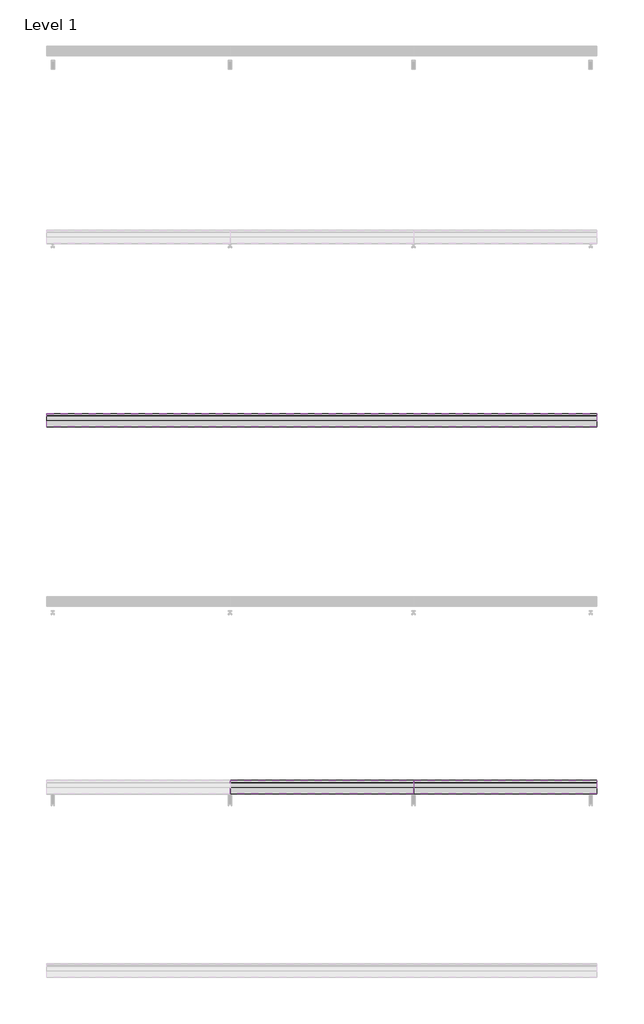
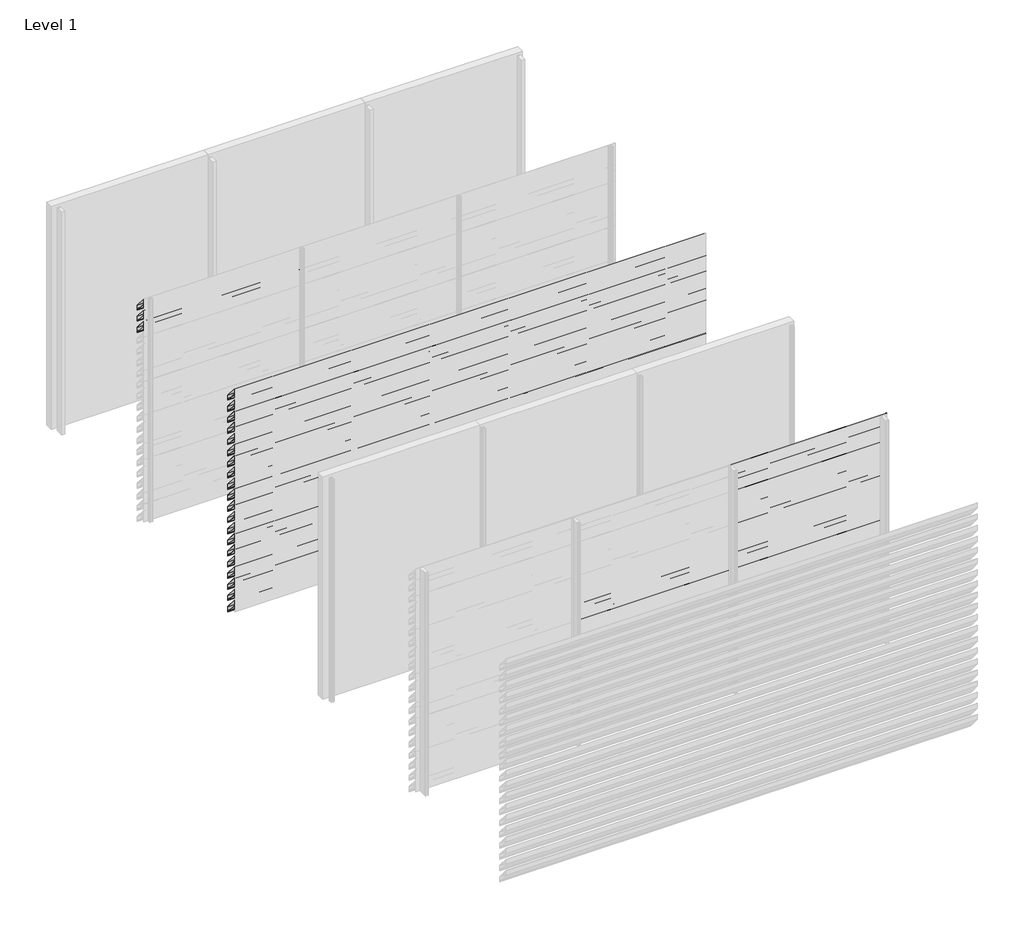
# One storey, part 5 of 16: 56 proxies.
"""IFC4 building model written with IfcOpenShell, lengths in millimetres."""

import ifcopenshell
import ifcopenshell.guid

model = None  # the IFC model being written
_history = None  # IfcOwnerHistory: only IFC2X3 demands one
_inside = {}  # id of a spatial element -> (the spatial element, [elements in it])
_under = {}  # id of a project, library or spatial element -> (it, [spatial elements below it])
_declared = {}  # id of a project -> (the project, [libraries it declares])
_typed = {}  # id of a type object -> (the type object, [elements of that type])
_made_of = {}  # id of a material, layer set ... -> (it, [elements and type objects made of it])


def new_model(schema):
    """Start an empty IFC model of exactly this schema.

    Asked for "IFC4X3", IfcOpenShell would pick the latest addendum, in which some entities
    have other attributes; the version numbers below select the first issue.
    IFC2X3 requires an IfcOwnerHistory on every rooted entity: one is made here for all.
    """
    global model, _history
    if schema == "IFC4X3":
        model = ifcopenshell.file(schema_version=(4, 3, 0, 0))
    else:
        model = ifcopenshell.file(schema=schema)
    _inside.clear()
    _under.clear()
    _declared.clear()
    _typed.clear()
    _made_of.clear()
    _history = None
    if model.schema == "IFC2X3":
        org = make("IfcOrganization", Name="unknown")
        user = make(
            "IfcPersonAndOrganization",
            ThePerson=make("IfcPerson", FamilyName="unknown"),
            TheOrganization=org,
        )
        app = make(
            "IfcApplication",
            ApplicationDeveloper=org,
            Version="unknown",
            ApplicationFullName="unknown",
            ApplicationIdentifier="unknown",
        )
        _history = make(
            "IfcOwnerHistory",
            OwningUser=user,
            OwningApplication=app,
            ChangeAction="ADDED",
            CreationDate=0,
        )
    return model


def make(cls, **values):
    """One entity of the class cls with the attributes given. An attribute that is None is left unset."""
    return model.create_entity(
        cls, **{name: value for name, value in values.items() if value is not None}
    )


def rooted(cls, **values):
    """An entity with a GlobalId (a new one), such as an element, a storey or a relation."""
    return make(cls, GlobalId=ifcopenshell.guid.new(), OwnerHistory=_history, **values)


def si_unit(unit_type, name, prefix=None):
    """IfcSIUnit, for example si_unit("LENGTHUNIT", "METRE", prefix="MILLI")."""
    return make("IfcSIUnit", UnitType=unit_type, Prefix=prefix, Name=name)


def assignment(units):
    """IfcUnitAssignment: the units of a project."""
    return None if units is None else make("IfcUnitAssignment", Units=units)


def point(xyz):
    """IfcCartesianPoint."""
    return None if xyz is None else make("IfcCartesianPoint", Coordinates=xyz)


def direction(xyz):
    """IfcDirection."""
    return None if xyz is None else make("IfcDirection", DirectionRatios=xyz)


def frame(location, z_axis=None, x_axis=None):
    """IfcAxis2Placement3D, a coordinate frame: its origin and axes. An axis left out is left unset."""
    return make(
        "IfcAxis2Placement3D",
        Location=point(location),
        Axis=direction(z_axis),
        RefDirection=direction(x_axis),
    )


def origin():
    """The frame at (0, 0, 0) with its axes left unset."""
    return frame((0.0, 0.0, 0.0))


def place(relative_to, where):
    """IfcLocalPlacement: puts the frame where relative to a parent placement (None: the world)."""
    return make(
        "IfcLocalPlacement", PlacementRelTo=relative_to, RelativePlacement=where
    )


def context(
    kind, dimensions, precision=None, world=None, true_north=None, identifier=None
):
    """IfcGeometricRepresentationContext, for example the 3D "Model" context."""
    return make(
        "IfcGeometricRepresentationContext",
        ContextIdentifier=identifier,
        ContextType=kind,
        CoordinateSpaceDimension=dimensions,
        Precision=precision,
        WorldCoordinateSystem=world,
        TrueNorth=true_north,
    )


def project(units=None, contexts=None):
    """IfcProject with its units and contexts."""
    return rooted(
        "IfcProject",
        Name="project",
        RepresentationContexts=contexts,
        UnitsInContext=assignment(units),
    )


def spatial(cls, under=None, at=None, **own):
    """A site, building, storey or space (cls), placed at a placement, below another one or the project."""
    s = rooted(cls, ObjectPlacement=at, **own)
    if under is not None:
        _under.setdefault(under.id(), (under, []))[1].append(s)
    return s


def polyline(points):
    """IfcPolyline through the points."""
    return make("IfcPolyline", Points=[point(p) for p in points])


def outline(outer, holes=None, kind="AREA"):
    """IfcArbitraryClosedProfileDef: a profile drawn as a closed curve; with holes, ...WithVoids."""
    if holes is None:
        return make("IfcArbitraryClosedProfileDef", ProfileType=kind, OuterCurve=outer)
    return make(
        "IfcArbitraryProfileDefWithVoids",
        ProfileType=kind,
        OuterCurve=outer,
        InnerCurves=holes,
    )


def extrude(swept, where, along, depth):
    """IfcExtrudedAreaSolid: the profile swept, set in the frame where, extruded along a direction by depth."""
    return make(
        "IfcExtrudedAreaSolid",
        SweptArea=swept,
        Position=where,
        ExtrudedDirection=direction(along),
        Depth=depth,
    )


def shape(context_of_items, identifier, shape_type, items):
    """IfcShapeRepresentation: the items that make up one representation, for example the "Body"."""
    return make(
        "IfcShapeRepresentation",
        ContextOfItems=context_of_items,
        RepresentationIdentifier=identifier,
        RepresentationType=shape_type,
        Items=items,
    )


def made_of(thing, what):
    """Note that an element or type object is made of a material, layer set ...; save() writes the relation."""
    if what is not None:
        _made_of.setdefault(what.id(), (what, []))[1].append(thing)
    return thing


def element(
    cls,
    number,
    at=None,
    inside=None,
    cuts=None,
    type_object=None,
    material=None,
    context=None,
    identifier="Body",
    shape_type=None,
    held_by="IfcProductDefinitionShape",
    body=None,
    shapes=None,
    **own,
):
    """One element of the class cls, such as IfcWall. Its Tag is "e" and its number.

    at: its placement. inside: the storey or other place that contains it. cuts: it is an
    opening in that element (IfcRelVoidsElement). A single representation is given by context,
    identifier, shape_type and body (its items); several are given by shapes. held_by: the class
    of the entity that holds the representations. save() writes the other relations.
    """
    e = rooted(cls, Tag="e%d" % number, ObjectPlacement=at, **own)
    if body is not None:
        shapes = [shape(context, identifier, shape_type, body)]
    if shapes is not None:
        e.Representation = make(held_by, Representations=shapes)
    if inside is not None:
        _inside.setdefault(inside.id(), (inside, []))[1].append(e)
    if cuts is not None:
        rooted(
            "IfcRelVoidsElement", RelatingBuildingElement=cuts, RelatedOpeningElement=e
        )
    if type_object is not None:
        _typed.setdefault(type_object.id(), (type_object, []))[1].append(e)
    return made_of(e, material)


def aggregate(whole, parts):
    """IfcRelAggregates: a whole, such as a stair, and the parts it consists of."""
    return rooted("IfcRelAggregates", RelatingObject=whole, RelatedObjects=parts)


def save(model, path):
    """Write the relations noted so far, then the file.

    IfcRelAggregates (storeys below a building ...), IfcRelContainedInSpatialStructure (elements
    in a storey), IfcRelDefinesByType, IfcRelAssociatesMaterial and IfcRelDeclares: one each for
    every whole, place, type object, material and project.
    """
    for whole, parts in _under.values():
        aggregate(whole, parts)
    for where, things in _inside.values():
        rooted(
            "IfcRelContainedInSpatialStructure",
            RelatedElements=things,
            RelatingStructure=where,
        )
    for kind, things in _typed.values():
        rooted("IfcRelDefinesByType", RelatedObjects=things, RelatingType=kind)
    for what, things in _made_of.values():
        rooted("IfcRelAssociatesMaterial", RelatedObjects=things, RelatingMaterial=what)
    for by, libraries in _declared.values():
        rooted("IfcRelDeclares", RelatingContext=by, RelatedDefinitions=libraries)
    model.write(path)


model = new_model("IFC4")

# Units and contexts
model_context = context("Model", 3, world=origin())
ifc_project = project(units=[si_unit("LENGTHUNIT", "METRE", prefix="MILLI")], contexts=[model_context])

# Site, building, storey
site = spatial("IfcSite", under=ifc_project)
building = spatial("IfcBuilding", under=site)
storey = spatial("IfcBuildingStorey", under=building, Name="Level 1", Elevation=0.0)

# Proxies
placement = place(None, origin())
element("IfcBuildingElementProxy", 1, Name="Wall Sweeps", at=placement, inside=storey, context=model_context, shape_type="SweptSolid", body=[
    extrude(outline(polyline([(-41851.0, 2830.0), (-41851.0, 2761.0), (-41853.5, 2762.1657691), (-41853.5, 2775.7059843), (-41870.2498671, 2795.6676986), (-41880.9351065, 2795.6676986), (-41998.0, 2935.1802059), (-41998.0, 3000.0), (-41993.6469373, 3000.0), (-41851.0, 2830.0)]), holes=[polyline([(-41996.1, 2998.1), (-41996.1, 2935.8717493), (-41880.049122, 2797.5676986), (-41869.3638825, 2797.5676986), (-41852.9, 2777.9468074), (-41852.9, 2829.3084566), (-41994.5329219, 2998.1), (-41996.1, 2998.1)])]), frame((0.0, 0.0, 0.0), z_axis=(1.0, 0.0, 0.0), x_axis=(0.0, 1.0, 0.0)), (0.0, 0.0, 1.0), 2000.0),
])
element("IfcBuildingElementProxy", 2, Name="Wall Sweeps", at=placement, inside=storey, context=model_context, shape_type="SweptSolid", body=[
    extrude(outline(polyline([(-41851.0, 2680.0), (-41851.0, 2611.0), (-41853.5, 2612.1657691), (-41853.5, 2625.7059843), (-41870.2498671, 2645.6676986), (-41880.9351065, 2645.6676986), (-41998.0, 2785.1802059), (-41998.0, 2850.0), (-41993.6469373, 2850.0), (-41851.0, 2680.0)]), holes=[polyline([(-41996.1, 2848.1), (-41996.1, 2785.8717493), (-41880.049122, 2647.5676986), (-41869.3638825, 2647.5676986), (-41852.9, 2627.9468074), (-41852.9, 2679.3084566), (-41994.5329219, 2848.1), (-41996.1, 2848.1)])]), frame((0.0, 0.0, 0.0), z_axis=(1.0, 0.0, 0.0), x_axis=(0.0, 1.0, 0.0)), (0.0, 0.0, 1.0), 2000.0),
])
element("IfcBuildingElementProxy", 3, Name="Wall Sweeps", at=placement, inside=storey, context=model_context, shape_type="SweptSolid", body=[
    extrude(outline(polyline([(-41851.0, 2530.0), (-41851.0, 2461.0), (-41853.5, 2462.1657691), (-41853.5, 2475.7059843), (-41870.2498671, 2495.6676986), (-41880.9351065, 2495.6676986), (-41998.0, 2635.1802059), (-41998.0, 2700.0), (-41993.6469373, 2700.0), (-41851.0, 2530.0)]), holes=[polyline([(-41996.1, 2698.1), (-41996.1, 2635.8717493), (-41880.049122, 2497.5676986), (-41869.3638825, 2497.5676986), (-41852.9, 2477.9468074), (-41852.9, 2529.3084566), (-41994.5329219, 2698.1), (-41996.1, 2698.1)])]), frame((0.0, 0.0, 0.0), z_axis=(1.0, 0.0, 0.0), x_axis=(0.0, 1.0, 0.0)), (0.0, 0.0, 1.0), 2000.0),
])
element("IfcBuildingElementProxy", 4, Name="Wall Sweeps", at=placement, inside=storey, context=model_context, shape_type="SweptSolid", body=[
    extrude(outline(polyline([(-43851.0, 2830.0), (-43851.0, 2761.0), (-43853.5, 2762.1657691), (-43853.5, 2775.7059843), (-43870.2498671, 2795.6676986), (-43880.9351065, 2795.6676986), (-43998.0, 2935.1802059), (-43998.0, 3000.0), (-43993.6469373, 3000.0), (-43851.0, 2830.0)]), holes=[polyline([(-43996.1, 2998.1), (-43996.1, 2935.8717493), (-43880.049122, 2797.5676986), (-43869.3638825, 2797.5676986), (-43852.9, 2777.9468074), (-43852.9, 2829.3084566), (-43994.5329219, 2998.1), (-43996.1, 2998.1)])]), frame((0.0, 0.0, 0.0), z_axis=(1.0, 0.0, 0.0), x_axis=(0.0, 1.0, 0.0)), (0.0, 0.0, 1.0), 6000.0),
])
element("IfcBuildingElementProxy", 5, Name="Wall Sweeps", at=placement, inside=storey, context=model_context, shape_type="SweptSolid", body=[
    extrude(outline(polyline([(-43851.0, 2680.0), (-43851.0, 2611.0), (-43853.5, 2612.1657691), (-43853.5, 2625.7059843), (-43870.2498671, 2645.6676986), (-43880.9351065, 2645.6676986), (-43998.0, 2785.1802059), (-43998.0, 2850.0), (-43993.6469373, 2850.0), (-43851.0, 2680.0)]), holes=[polyline([(-43996.1, 2848.1), (-43996.1, 2785.8717493), (-43880.049122, 2647.5676986), (-43869.3638825, 2647.5676986), (-43852.9, 2627.9468074), (-43852.9, 2679.3084566), (-43994.5329219, 2848.1), (-43996.1, 2848.1)])]), frame((0.0, 0.0, 0.0), z_axis=(1.0, 0.0, 0.0), x_axis=(0.0, 1.0, 0.0)), (0.0, 0.0, 1.0), 6000.0),
])
element("IfcBuildingElementProxy", 6, Name="Wall Sweeps", at=placement, inside=storey, context=model_context, shape_type="SweptSolid", body=[
    extrude(outline(polyline([(-43851.0, 2530.0), (-43851.0, 2461.0), (-43853.5, 2462.1657691), (-43853.5, 2475.7059843), (-43870.2498671, 2495.6676986), (-43880.9351065, 2495.6676986), (-43998.0, 2635.1802059), (-43998.0, 2700.0), (-43993.6469373, 2700.0), (-43851.0, 2530.0)]), holes=[polyline([(-43996.1, 2698.1), (-43996.1, 2635.8717493), (-43880.049122, 2497.5676986), (-43869.3638825, 2497.5676986), (-43852.9, 2477.9468074), (-43852.9, 2529.3084566), (-43994.5329219, 2698.1), (-43996.1, 2698.1)])]), frame((0.0, 0.0, 0.0), z_axis=(1.0, 0.0, 0.0), x_axis=(0.0, 1.0, 0.0)), (0.0, 0.0, 1.0), 6000.0),
])
element("IfcBuildingElementProxy", 7, Name="Wall Sweeps", at=placement, inside=storey, context=model_context, shape_type="SweptSolid", body=[
    extrude(outline(polyline([(-43851.0, 2380.0), (-43851.0, 2311.0), (-43853.5, 2312.1657691), (-43853.5, 2325.7059843), (-43870.2498671, 2345.6676986), (-43880.9351065, 2345.6676986), (-43998.0, 2485.1802059), (-43998.0, 2550.0), (-43993.6469373, 2550.0), (-43851.0, 2380.0)]), holes=[polyline([(-43996.1, 2548.1), (-43996.1, 2485.8717493), (-43880.049122, 2347.5676986), (-43869.3638825, 2347.5676986), (-43852.9, 2327.9468074), (-43852.9, 2379.3084566), (-43994.5329219, 2548.1), (-43996.1, 2548.1)])]), frame((0.0, 0.0, 0.0), z_axis=(1.0, 0.0, 0.0), x_axis=(0.0, 1.0, 0.0)), (0.0, 0.0, 1.0), 6000.0),
])
element("IfcBuildingElementProxy", 8, Name="Wall Sweeps", at=placement, inside=storey, context=model_context, shape_type="SweptSolid", body=[
    extrude(outline(polyline([(-43851.0, 2230.0), (-43851.0, 2161.0), (-43853.5, 2162.1657691), (-43853.5, 2175.7059843), (-43870.2498671, 2195.6676986), (-43880.9351065, 2195.6676986), (-43998.0, 2335.1802059), (-43998.0, 2400.0), (-43993.6469373, 2400.0), (-43851.0, 2230.0)]), holes=[polyline([(-43996.1, 2398.1), (-43996.1, 2335.8717493), (-43880.049122, 2197.5676986), (-43869.3638825, 2197.5676986), (-43852.9, 2177.9468074), (-43852.9, 2229.3084566), (-43994.5329219, 2398.1), (-43996.1, 2398.1)])]), frame((0.0, 0.0, 0.0), z_axis=(1.0, 0.0, 0.0), x_axis=(0.0, 1.0, 0.0)), (0.0, 0.0, 1.0), 6000.0),
])
element("IfcBuildingElementProxy", 9, Name="Wall Sweeps", at=placement, inside=storey, context=model_context, shape_type="SweptSolid", body=[
    extrude(outline(polyline([(-43851.0, 2080.0), (-43851.0, 2011.0), (-43853.5, 2012.1657691), (-43853.5, 2025.7059843), (-43870.2498671, 2045.6676986), (-43880.9351065, 2045.6676986), (-43998.0, 2185.1802059), (-43998.0, 2250.0), (-43993.6469373, 2250.0), (-43851.0, 2080.0)]), holes=[polyline([(-43996.1, 2248.1), (-43996.1, 2185.8717493), (-43880.049122, 2047.5676986), (-43869.3638825, 2047.5676986), (-43852.9, 2027.9468074), (-43852.9, 2079.3084566), (-43994.5329219, 2248.1), (-43996.1, 2248.1)])]), frame((0.0, 0.0, 0.0), z_axis=(1.0, 0.0, 0.0), x_axis=(0.0, 1.0, 0.0)), (0.0, 0.0, 1.0), 6000.0),
])
element("IfcBuildingElementProxy", 10, Name="Wall Sweeps", at=placement, inside=storey, context=model_context, shape_type="SweptSolid", body=[
    extrude(outline(polyline([(-43851.0, 1930.0), (-43851.0, 1861.0), (-43853.5, 1862.1657691), (-43853.5, 1875.7059843), (-43870.2498671, 1895.6676986), (-43880.9351065, 1895.6676986), (-43998.0, 2035.1802059), (-43998.0, 2100.0), (-43993.6469373, 2100.0), (-43851.0, 1930.0)]), holes=[polyline([(-43996.1, 2098.1), (-43996.1, 2035.8717493), (-43880.049122, 1897.5676986), (-43869.3638825, 1897.5676986), (-43852.9, 1877.9468074), (-43852.9, 1929.3084566), (-43994.5329219, 2098.1), (-43996.1, 2098.1)])]), frame((0.0, 0.0, 0.0), z_axis=(1.0, 0.0, 0.0), x_axis=(0.0, 1.0, 0.0)), (0.0, 0.0, 1.0), 6000.0),
])
element("IfcBuildingElementProxy", 11, Name="Wall Sweeps", at=placement, inside=storey, context=model_context, shape_type="SweptSolid", body=[
    extrude(outline(polyline([(-43851.0, 1780.0), (-43851.0, 1711.0), (-43853.5, 1712.1657691), (-43853.5, 1725.7059843), (-43870.2498671, 1745.6676986), (-43880.9351065, 1745.6676986), (-43998.0, 1885.1802059), (-43998.0, 1950.0), (-43993.6469373, 1950.0), (-43851.0, 1780.0)]), holes=[polyline([(-43996.1, 1948.1), (-43996.1, 1885.8717493), (-43880.049122, 1747.5676986), (-43869.3638825, 1747.5676986), (-43852.9, 1727.9468074), (-43852.9, 1779.3084566), (-43994.5329219, 1948.1), (-43996.1, 1948.1)])]), frame((0.0, 0.0, 0.0), z_axis=(1.0, 0.0, 0.0), x_axis=(0.0, 1.0, 0.0)), (0.0, 0.0, 1.0), 6000.0),
])
element("IfcBuildingElementProxy", 12, Name="Wall Sweeps", at=placement, inside=storey, context=model_context, shape_type="SweptSolid", body=[
    extrude(outline(polyline([(-43851.0, 1630.0), (-43851.0, 1561.0), (-43853.5, 1562.1657691), (-43853.5, 1575.7059843), (-43870.2498671, 1595.6676986), (-43880.9351065, 1595.6676986), (-43998.0, 1735.1802059), (-43998.0, 1800.0), (-43993.6469373, 1800.0), (-43851.0, 1630.0)]), holes=[polyline([(-43996.1, 1798.1), (-43996.1, 1735.8717493), (-43880.049122, 1597.5676986), (-43869.3638825, 1597.5676986), (-43852.9, 1577.9468074), (-43852.9, 1629.3084566), (-43994.5329219, 1798.1), (-43996.1, 1798.1)])]), frame((0.0, 0.0, 0.0), z_axis=(1.0, 0.0, 0.0), x_axis=(0.0, 1.0, 0.0)), (0.0, 0.0, 1.0), 6000.0),
])
element("IfcBuildingElementProxy", 13, Name="Wall Sweeps", at=placement, inside=storey, context=model_context, shape_type="SweptSolid", body=[
    extrude(outline(polyline([(-43851.0, 1480.0), (-43851.0, 1411.0), (-43853.5, 1412.1657691), (-43853.5, 1425.7059843), (-43870.2498671, 1445.6676986), (-43880.9351065, 1445.6676986), (-43998.0, 1585.1802059), (-43998.0, 1650.0), (-43993.6469373, 1650.0), (-43851.0, 1480.0)]), holes=[polyline([(-43996.1, 1648.1), (-43996.1, 1585.8717493), (-43880.049122, 1447.5676986), (-43869.3638825, 1447.5676986), (-43852.9, 1427.9468074), (-43852.9, 1479.3084566), (-43994.5329219, 1648.1), (-43996.1, 1648.1)])]), frame((0.0, 0.0, 0.0), z_axis=(1.0, 0.0, 0.0), x_axis=(0.0, 1.0, 0.0)), (0.0, 0.0, 1.0), 6000.0),
])
element("IfcBuildingElementProxy", 14, Name="Wall Sweeps", at=placement, inside=storey, context=model_context, shape_type="SweptSolid", body=[
    extrude(outline(polyline([(-43851.0, 1330.0), (-43851.0, 1261.0), (-43853.5, 1262.1657691), (-43853.5, 1275.7059843), (-43870.2498671, 1295.6676986), (-43880.9351065, 1295.6676986), (-43998.0, 1435.1802059), (-43998.0, 1500.0), (-43993.6469373, 1500.0), (-43851.0, 1330.0)]), holes=[polyline([(-43996.1, 1498.1), (-43996.1, 1435.8717493), (-43880.049122, 1297.5676986), (-43869.3638825, 1297.5676986), (-43852.9, 1277.9468074), (-43852.9, 1329.3084566), (-43994.5329219, 1498.1), (-43996.1, 1498.1)])]), frame((0.0, 0.0, 0.0), z_axis=(1.0, 0.0, 0.0), x_axis=(0.0, 1.0, 0.0)), (0.0, 0.0, 1.0), 6000.0),
])
element("IfcBuildingElementProxy", 15, Name="Wall Sweeps", at=placement, inside=storey, context=model_context, shape_type="SweptSolid", body=[
    extrude(outline(polyline([(-43851.0, 1180.0), (-43851.0, 1111.0), (-43853.5, 1112.1657691), (-43853.5, 1125.7059843), (-43870.2498671, 1145.6676986), (-43880.9351065, 1145.6676986), (-43998.0, 1285.1802059), (-43998.0, 1350.0), (-43993.6469373, 1350.0), (-43851.0, 1180.0)]), holes=[polyline([(-43996.1, 1348.1), (-43996.1, 1285.8717493), (-43880.049122, 1147.5676986), (-43869.3638825, 1147.5676986), (-43852.9, 1127.9468074), (-43852.9, 1179.3084566), (-43994.5329219, 1348.1), (-43996.1, 1348.1)])]), frame((0.0, 0.0, 0.0), z_axis=(1.0, 0.0, 0.0), x_axis=(0.0, 1.0, 0.0)), (0.0, 0.0, 1.0), 6000.0),
])
element("IfcBuildingElementProxy", 16, Name="Wall Sweeps", at=placement, inside=storey, context=model_context, shape_type="SweptSolid", body=[
    extrude(outline(polyline([(-43851.0, 1030.0), (-43851.0, 961.0), (-43853.5, 962.1657691), (-43853.5, 975.7059843), (-43870.2498671, 995.6676986), (-43880.9351065, 995.6676986), (-43998.0, 1135.1802059), (-43998.0, 1200.0), (-43993.6469373, 1200.0), (-43851.0, 1030.0)]), holes=[polyline([(-43996.1, 1198.1), (-43996.1, 1135.8717493), (-43880.049122, 997.5676986), (-43869.3638825, 997.5676986), (-43852.9, 977.9468074), (-43852.9, 1029.3084566), (-43994.5329219, 1198.1), (-43996.1, 1198.1)])]), frame((0.0, 0.0, 0.0), z_axis=(1.0, 0.0, 0.0), x_axis=(0.0, 1.0, 0.0)), (0.0, 0.0, 1.0), 6000.0),
])
element("IfcBuildingElementProxy", 17, Name="Wall Sweeps", at=placement, inside=storey, context=model_context, shape_type="SweptSolid", body=[
    extrude(outline(polyline([(-43851.0, 880.0), (-43851.0, 811.0), (-43853.5, 812.1657691), (-43853.5, 825.7059843), (-43870.2498671, 845.6676986), (-43880.9351065, 845.6676986), (-43998.0, 985.1802059), (-43998.0, 1050.0), (-43993.6469373, 1050.0), (-43851.0, 880.0)]), holes=[polyline([(-43996.1, 1048.1), (-43996.1, 985.8717493), (-43880.049122, 847.5676986), (-43869.3638825, 847.5676986), (-43852.9, 827.9468074), (-43852.9, 879.3084566), (-43994.5329219, 1048.1), (-43996.1, 1048.1)])]), frame((0.0, 0.0, 0.0), z_axis=(1.0, 0.0, 0.0), x_axis=(0.0, 1.0, 0.0)), (0.0, 0.0, 1.0), 6000.0),
])
element("IfcBuildingElementProxy", 18, Name="Wall Sweeps", at=placement, inside=storey, context=model_context, shape_type="SweptSolid", body=[
    extrude(outline(polyline([(-43851.0, 730.0), (-43851.0, 661.0), (-43853.5, 662.1657691), (-43853.5, 675.7059843), (-43870.2498671, 695.6676986), (-43880.9351065, 695.6676986), (-43998.0, 835.1802059), (-43998.0, 900.0), (-43993.6469373, 900.0), (-43851.0, 730.0)]), holes=[polyline([(-43996.1, 898.1), (-43996.1, 835.8717493), (-43880.049122, 697.5676986), (-43869.3638825, 697.5676986), (-43852.9, 677.9468074), (-43852.9, 729.3084566), (-43994.5329219, 898.1), (-43996.1, 898.1)])]), frame((0.0, 0.0, 0.0), z_axis=(1.0, 0.0, 0.0), x_axis=(0.0, 1.0, 0.0)), (0.0, 0.0, 1.0), 6000.0),
])
element("IfcBuildingElementProxy", 19, Name="Wall Sweeps", at=placement, inside=storey, context=model_context, shape_type="SweptSolid", body=[
    extrude(outline(polyline([(-43851.0, 580.0), (-43851.0, 511.0), (-43853.5, 512.1657691), (-43853.5, 525.7059843), (-43870.2498671, 545.6676986), (-43880.9351065, 545.6676986), (-43998.0, 685.1802059), (-43998.0, 750.0), (-43993.6469373, 750.0), (-43851.0, 580.0)]), holes=[polyline([(-43996.1, 748.1), (-43996.1, 685.8717493), (-43880.049122, 547.5676986), (-43869.3638825, 547.5676986), (-43852.9, 527.9468074), (-43852.9, 579.3084566), (-43994.5329219, 748.1), (-43996.1, 748.1)])]), frame((0.0, 0.0, 0.0), z_axis=(1.0, 0.0, 0.0), x_axis=(0.0, 1.0, 0.0)), (0.0, 0.0, 1.0), 6000.0),
])
element("IfcBuildingElementProxy", 20, Name="Wall Sweeps", at=placement, inside=storey, context=model_context, shape_type="SweptSolid", body=[
    extrude(outline(polyline([(-43851.0, 430.0), (-43851.0, 361.0), (-43853.5, 362.1657691), (-43853.5, 375.7059843), (-43870.2498671, 395.6676986), (-43880.9351065, 395.6676986), (-43998.0, 535.1802059), (-43998.0, 600.0), (-43993.6469373, 600.0), (-43851.0, 430.0)]), holes=[polyline([(-43996.1, 598.1), (-43996.1, 535.8717493), (-43880.049122, 397.5676986), (-43869.3638825, 397.5676986), (-43852.9, 377.9468074), (-43852.9, 429.3084566), (-43994.5329219, 598.1), (-43996.1, 598.1)])]), frame((0.0, 0.0, 0.0), z_axis=(1.0, 0.0, 0.0), x_axis=(0.0, 1.0, 0.0)), (0.0, 0.0, 1.0), 6000.0),
])
element("IfcBuildingElementProxy", 21, Name="Wall Sweeps", at=placement, inside=storey, context=model_context, shape_type="SweptSolid", body=[
    extrude(outline(polyline([(-43851.0, 280.0), (-43851.0, 211.0), (-43853.5, 212.1657691), (-43853.5, 225.7059843), (-43870.2498671, 245.6676986), (-43880.9351065, 245.6676986), (-43998.0, 385.1802059), (-43998.0, 450.0), (-43993.6469373, 450.0), (-43851.0, 280.0)]), holes=[polyline([(-43996.1, 448.1), (-43996.1, 385.8717493), (-43880.049122, 247.5676986), (-43869.3638825, 247.5676986), (-43852.9, 227.9468074), (-43852.9, 279.3084566), (-43994.5329219, 448.1), (-43996.1, 448.1)])]), frame((0.0, 0.0, 0.0), z_axis=(1.0, 0.0, 0.0), x_axis=(0.0, 1.0, 0.0)), (0.0, 0.0, 1.0), 6000.0),
])
element("IfcBuildingElementProxy", 22, Name="Wall Sweeps", at=placement, inside=storey, context=model_context, shape_type="SweptSolid", body=[
    extrude(outline(polyline([(-43851.0, 130.0), (-43851.0, 61.0), (-43853.5, 62.1657691), (-43853.5, 75.7059843), (-43870.2498671, 95.6676986), (-43880.9351065, 95.6676986), (-43998.0, 235.1802059), (-43998.0, 300.0), (-43993.6469373, 300.0), (-43851.0, 130.0)]), holes=[polyline([(-43996.1, 298.1), (-43996.1, 235.8717493), (-43880.049122, 97.5676986), (-43869.3638825, 97.5676986), (-43852.9, 77.9468074), (-43852.9, 129.3084566), (-43994.5329219, 298.1), (-43996.1, 298.1)])]), frame((0.0, 0.0, 0.0), z_axis=(1.0, 0.0, 0.0), x_axis=(0.0, 1.0, 0.0)), (0.0, 0.0, 1.0), 6000.0),
])
element("IfcBuildingElementProxy", 23, Name="Wall Sweeps", at=placement, inside=storey, context=model_context, shape_type="SweptSolid", body=[
    extrude(outline(polyline([(-43851.0, -20.0), (-43851.0, -89.0), (-43853.5, -87.8342309), (-43853.5, -74.2940157), (-43870.2498671, -54.3323014), (-43880.9351065, -54.3323014), (-43998.0, 85.1802059), (-43998.0, 150.0), (-43993.6469373, 150.0), (-43851.0, -20.0)]), holes=[polyline([(-43996.1, 148.1), (-43996.1, 85.8717493), (-43880.049122, -52.4323014), (-43869.3638825, -52.4323014), (-43852.9, -72.0531926), (-43852.9, -20.6915434), (-43994.5329219, 148.1), (-43996.1, 148.1)])]), frame((0.0, 0.0, 0.0), z_axis=(1.0, 0.0, 0.0), x_axis=(0.0, 1.0, 0.0)), (0.0, 0.0, 1.0), 6000.0),
])
element("IfcBuildingElementProxy", 24, Name="Wall Sweeps", at=placement, inside=storey, context=model_context, shape_type="SweptSolid", body=[
    extrude(outline(polyline([(-47851.0, 1780.0), (-47851.0, 1711.0), (-47853.5, 1712.1657691), (-47853.5, 1725.7059843), (-47870.2498671, 1745.6676986), (-47880.9351065, 1745.6676986), (-47998.0, 1885.1802059), (-47998.0, 1950.0), (-47993.6469373, 1950.0), (-47851.0, 1780.0)]), holes=[polyline([(-47996.1, 1948.1), (-47996.1, 1885.8717493), (-47880.049122, 1747.5676986), (-47869.3638825, 1747.5676986), (-47852.9, 1727.9468074), (-47852.9, 1779.3084566), (-47994.5329219, 1948.1), (-47996.1, 1948.1)])]), frame((2000.0, 0.0, 0.0), z_axis=(1.0, 0.0, 0.0), x_axis=(0.0, 1.0, 0.0)), (0.0, 0.0, 1.0), 2000.0),
])
element("IfcBuildingElementProxy", 25, Name="Wall Sweeps", at=placement, inside=storey, context=model_context, shape_type="SweptSolid", body=[
    extrude(outline(polyline([(-47851.0, 1630.0), (-47851.0, 1561.0), (-47853.5, 1562.1657691), (-47853.5, 1575.7059843), (-47870.2498671, 1595.6676986), (-47880.9351065, 1595.6676986), (-47998.0, 1735.1802059), (-47998.0, 1800.0), (-47993.6469373, 1800.0), (-47851.0, 1630.0)]), holes=[polyline([(-47996.1, 1798.1), (-47996.1, 1735.8717493), (-47880.049122, 1597.5676986), (-47869.3638825, 1597.5676986), (-47852.9, 1577.9468074), (-47852.9, 1629.3084566), (-47994.5329219, 1798.1), (-47996.1, 1798.1)])]), frame((2000.0, 0.0, 0.0), z_axis=(1.0, 0.0, 0.0), x_axis=(0.0, 1.0, 0.0)), (0.0, 0.0, 1.0), 2000.0),
])
element("IfcBuildingElementProxy", 26, Name="Wall Sweeps", at=placement, inside=storey, context=model_context, shape_type="SweptSolid", body=[
    extrude(outline(polyline([(-47851.0, 1480.0), (-47851.0, 1411.0), (-47853.5, 1412.1657691), (-47853.5, 1425.7059843), (-47870.2498671, 1445.6676986), (-47880.9351065, 1445.6676986), (-47998.0, 1585.1802059), (-47998.0, 1650.0), (-47993.6469373, 1650.0), (-47851.0, 1480.0)]), holes=[polyline([(-47996.1, 1648.1), (-47996.1, 1585.8717493), (-47880.049122, 1447.5676986), (-47869.3638825, 1447.5676986), (-47852.9, 1427.9468074), (-47852.9, 1479.3084566), (-47994.5329219, 1648.1), (-47996.1, 1648.1)])]), frame((2000.0, 0.0, 0.0), z_axis=(1.0, 0.0, 0.0), x_axis=(0.0, 1.0, 0.0)), (0.0, 0.0, 1.0), 2000.0),
])
element("IfcBuildingElementProxy", 27, Name="Wall Sweeps", at=placement, inside=storey, context=model_context, shape_type="SweptSolid", body=[
    extrude(outline(polyline([(-47851.0, 1330.0), (-47851.0, 1261.0), (-47853.5, 1262.1657691), (-47853.5, 1275.7059843), (-47870.2498671, 1295.6676986), (-47880.9351065, 1295.6676986), (-47998.0, 1435.1802059), (-47998.0, 1500.0), (-47993.6469373, 1500.0), (-47851.0, 1330.0)]), holes=[polyline([(-47996.1, 1498.1), (-47996.1, 1435.8717493), (-47880.049122, 1297.5676986), (-47869.3638825, 1297.5676986), (-47852.9, 1277.9468074), (-47852.9, 1329.3084566), (-47994.5329219, 1498.1), (-47996.1, 1498.1)])]), frame((2000.0, 0.0, 0.0), z_axis=(1.0, 0.0, 0.0), x_axis=(0.0, 1.0, 0.0)), (0.0, 0.0, 1.0), 2000.0),
])
element("IfcBuildingElementProxy", 28, Name="Wall Sweeps", at=placement, inside=storey, context=model_context, shape_type="SweptSolid", body=[
    extrude(outline(polyline([(-47851.0, 1180.0), (-47851.0, 1111.0), (-47853.5, 1112.1657691), (-47853.5, 1125.7059843), (-47870.2498671, 1145.6676986), (-47880.9351065, 1145.6676986), (-47998.0, 1285.1802059), (-47998.0, 1350.0), (-47993.6469373, 1350.0), (-47851.0, 1180.0)]), holes=[polyline([(-47996.1, 1348.1), (-47996.1, 1285.8717493), (-47880.049122, 1147.5676986), (-47869.3638825, 1147.5676986), (-47852.9, 1127.9468074), (-47852.9, 1179.3084566), (-47994.5329219, 1348.1), (-47996.1, 1348.1)])]), frame((2000.0, 0.0, 0.0), z_axis=(1.0, 0.0, 0.0), x_axis=(0.0, 1.0, 0.0)), (0.0, 0.0, 1.0), 2000.0),
])
element("IfcBuildingElementProxy", 29, Name="Wall Sweeps", at=placement, inside=storey, context=model_context, shape_type="SweptSolid", body=[
    extrude(outline(polyline([(-47851.0, 1030.0), (-47851.0, 961.0), (-47853.5, 962.1657691), (-47853.5, 975.7059843), (-47870.2498671, 995.6676986), (-47880.9351065, 995.6676986), (-47998.0, 1135.1802059), (-47998.0, 1200.0), (-47993.6469373, 1200.0), (-47851.0, 1030.0)]), holes=[polyline([(-47996.1, 1198.1), (-47996.1, 1135.8717493), (-47880.049122, 997.5676986), (-47869.3638825, 997.5676986), (-47852.9, 977.9468074), (-47852.9, 1029.3084566), (-47994.5329219, 1198.1), (-47996.1, 1198.1)])]), frame((2000.0, 0.0, 0.0), z_axis=(1.0, 0.0, 0.0), x_axis=(0.0, 1.0, 0.0)), (0.0, 0.0, 1.0), 2000.0),
])
element("IfcBuildingElementProxy", 30, Name="Wall Sweeps", at=placement, inside=storey, context=model_context, shape_type="SweptSolid", body=[
    extrude(outline(polyline([(-47851.0, 880.0), (-47851.0, 811.0), (-47853.5, 812.1657691), (-47853.5, 825.7059843), (-47870.2498671, 845.6676986), (-47880.9351065, 845.6676986), (-47998.0, 985.1802059), (-47998.0, 1050.0), (-47993.6469373, 1050.0), (-47851.0, 880.0)]), holes=[polyline([(-47996.1, 1048.1), (-47996.1, 985.8717493), (-47880.049122, 847.5676986), (-47869.3638825, 847.5676986), (-47852.9, 827.9468074), (-47852.9, 879.3084566), (-47994.5329219, 1048.1), (-47996.1, 1048.1)])]), frame((2000.0, 0.0, 0.0), z_axis=(1.0, 0.0, 0.0), x_axis=(0.0, 1.0, 0.0)), (0.0, 0.0, 1.0), 2000.0),
])
element("IfcBuildingElementProxy", 31, Name="Wall Sweeps", at=placement, inside=storey, context=model_context, shape_type="SweptSolid", body=[
    extrude(outline(polyline([(-47851.0, 730.0), (-47851.0, 661.0), (-47853.5, 662.1657691), (-47853.5, 675.7059843), (-47870.2498671, 695.6676986), (-47880.9351065, 695.6676986), (-47998.0, 835.1802059), (-47998.0, 900.0), (-47993.6469373, 900.0), (-47851.0, 730.0)]), holes=[polyline([(-47996.1, 898.1), (-47996.1, 835.8717493), (-47880.049122, 697.5676986), (-47869.3638825, 697.5676986), (-47852.9, 677.9468074), (-47852.9, 729.3084566), (-47994.5329219, 898.1), (-47996.1, 898.1)])]), frame((2000.0, 0.0, 0.0), z_axis=(1.0, 0.0, 0.0), x_axis=(0.0, 1.0, 0.0)), (0.0, 0.0, 1.0), 2000.0),
])
element("IfcBuildingElementProxy", 32, Name="Wall Sweeps", at=placement, inside=storey, context=model_context, shape_type="SweptSolid", body=[
    extrude(outline(polyline([(-47851.0, 580.0), (-47851.0, 511.0), (-47853.5, 512.1657691), (-47853.5, 525.7059843), (-47870.2498671, 545.6676986), (-47880.9351065, 545.6676986), (-47998.0, 685.1802059), (-47998.0, 750.0), (-47993.6469373, 750.0), (-47851.0, 580.0)]), holes=[polyline([(-47996.1, 748.1), (-47996.1, 685.8717493), (-47880.049122, 547.5676986), (-47869.3638825, 547.5676986), (-47852.9, 527.9468074), (-47852.9, 579.3084566), (-47994.5329219, 748.1), (-47996.1, 748.1)])]), frame((2000.0, 0.0, 0.0), z_axis=(1.0, 0.0, 0.0), x_axis=(0.0, 1.0, 0.0)), (0.0, 0.0, 1.0), 2000.0),
])
element("IfcBuildingElementProxy", 33, Name="Wall Sweeps", at=placement, inside=storey, context=model_context, shape_type="SweptSolid", body=[
    extrude(outline(polyline([(-47851.0, 430.0), (-47851.0, 361.0), (-47853.5, 362.1657691), (-47853.5, 375.7059843), (-47870.2498671, 395.6676986), (-47880.9351065, 395.6676986), (-47998.0, 535.1802059), (-47998.0, 600.0), (-47993.6469373, 600.0), (-47851.0, 430.0)]), holes=[polyline([(-47996.1, 598.1), (-47996.1, 535.8717493), (-47880.049122, 397.5676986), (-47869.3638825, 397.5676986), (-47852.9, 377.9468074), (-47852.9, 429.3084566), (-47994.5329219, 598.1), (-47996.1, 598.1)])]), frame((2000.0, 0.0, 0.0), z_axis=(1.0, 0.0, 0.0), x_axis=(0.0, 1.0, 0.0)), (0.0, 0.0, 1.0), 2000.0),
])
element("IfcBuildingElementProxy", 34, Name="Wall Sweeps", at=placement, inside=storey, context=model_context, shape_type="SweptSolid", body=[
    extrude(outline(polyline([(-47851.0, 280.0), (-47851.0, 211.0), (-47853.5, 212.1657691), (-47853.5, 225.7059843), (-47870.2498671, 245.6676986), (-47880.9351065, 245.6676986), (-47998.0, 385.1802059), (-47998.0, 450.0), (-47993.6469373, 450.0), (-47851.0, 280.0)]), holes=[polyline([(-47996.1, 448.1), (-47996.1, 385.8717493), (-47880.049122, 247.5676986), (-47869.3638825, 247.5676986), (-47852.9, 227.9468074), (-47852.9, 279.3084566), (-47994.5329219, 448.1), (-47996.1, 448.1)])]), frame((2000.0, 0.0, 0.0), z_axis=(1.0, 0.0, 0.0), x_axis=(0.0, 1.0, 0.0)), (0.0, 0.0, 1.0), 2000.0),
])
element("IfcBuildingElementProxy", 35, Name="Wall Sweeps", at=placement, inside=storey, context=model_context, shape_type="SweptSolid", body=[
    extrude(outline(polyline([(-47851.0, 130.0), (-47851.0, 61.0), (-47853.5, 62.1657691), (-47853.5, 75.7059843), (-47870.2498671, 95.6676986), (-47880.9351065, 95.6676986), (-47998.0, 235.1802059), (-47998.0, 300.0), (-47993.6469373, 300.0), (-47851.0, 130.0)]), holes=[polyline([(-47996.1, 298.1), (-47996.1, 235.8717493), (-47880.049122, 97.5676986), (-47869.3638825, 97.5676986), (-47852.9, 77.9468074), (-47852.9, 129.3084566), (-47994.5329219, 298.1), (-47996.1, 298.1)])]), frame((2000.0, 0.0, 0.0), z_axis=(1.0, 0.0, 0.0), x_axis=(0.0, 1.0, 0.0)), (0.0, 0.0, 1.0), 2000.0),
])
element("IfcBuildingElementProxy", 36, Name="Wall Sweeps", at=placement, inside=storey, context=model_context, shape_type="SweptSolid", body=[
    extrude(outline(polyline([(-47851.0, -20.0), (-47851.0, -89.0), (-47853.5, -87.8342309), (-47853.5, -74.2940157), (-47870.2498671, -54.3323014), (-47880.9351065, -54.3323014), (-47998.0, 85.1802059), (-47998.0, 150.0), (-47993.6469373, 150.0), (-47851.0, -20.0)]), holes=[polyline([(-47996.1, 148.1), (-47996.1, 85.8717493), (-47880.049122, -52.4323014), (-47869.3638825, -52.4323014), (-47852.9, -72.0531926), (-47852.9, -20.6915434), (-47994.5329219, 148.1), (-47996.1, 148.1)])]), frame((2000.0, 0.0, 0.0), z_axis=(1.0, 0.0, 0.0), x_axis=(0.0, 1.0, 0.0)), (0.0, 0.0, 1.0), 2000.0),
])
element("IfcBuildingElementProxy", 37, Name="Wall Sweeps", at=placement, inside=storey, context=model_context, shape_type="SweptSolid", body=[
    extrude(outline(polyline([(-47851.0, 2830.0), (-47851.0, 2761.0), (-47853.5, 2762.1657691), (-47853.5, 2775.7059843), (-47870.2498671, 2795.6676986), (-47880.9351065, 2795.6676986), (-47998.0, 2935.1802059), (-47998.0, 3000.0), (-47993.6469373, 3000.0), (-47851.0, 2830.0)]), holes=[polyline([(-47996.1, 2998.1), (-47996.1, 2935.8717493), (-47880.049122, 2797.5676986), (-47869.3638825, 2797.5676986), (-47852.9, 2777.9468074), (-47852.9, 2829.3084566), (-47994.5329219, 2998.1), (-47996.1, 2998.1)])]), frame((4000.0, 0.0, 0.0), z_axis=(1.0, 0.0, 0.0), x_axis=(0.0, 1.0, 0.0)), (0.0, 0.0, 1.0), 2000.0),
])
element("IfcBuildingElementProxy", 38, Name="Wall Sweeps", at=placement, inside=storey, context=model_context, shape_type="SweptSolid", body=[
    extrude(outline(polyline([(-47851.0, 2680.0), (-47851.0, 2611.0), (-47853.5, 2612.1657691), (-47853.5, 2625.7059843), (-47870.2498671, 2645.6676986), (-47880.9351065, 2645.6676986), (-47998.0, 2785.1802059), (-47998.0, 2850.0), (-47993.6469373, 2850.0), (-47851.0, 2680.0)]), holes=[polyline([(-47996.1, 2848.1), (-47996.1, 2785.8717493), (-47880.049122, 2647.5676986), (-47869.3638825, 2647.5676986), (-47852.9, 2627.9468074), (-47852.9, 2679.3084566), (-47994.5329219, 2848.1), (-47996.1, 2848.1)])]), frame((4000.0, 0.0, 0.0), z_axis=(1.0, 0.0, 0.0), x_axis=(0.0, 1.0, 0.0)), (0.0, 0.0, 1.0), 2000.0),
])
element("IfcBuildingElementProxy", 39, Name="Wall Sweeps", at=placement, inside=storey, context=model_context, shape_type="SweptSolid", body=[
    extrude(outline(polyline([(-47851.0, 2530.0), (-47851.0, 2461.0), (-47853.5, 2462.1657691), (-47853.5, 2475.7059843), (-47870.2498671, 2495.6676986), (-47880.9351065, 2495.6676986), (-47998.0, 2635.1802059), (-47998.0, 2700.0), (-47993.6469373, 2700.0), (-47851.0, 2530.0)]), holes=[polyline([(-47996.1, 2698.1), (-47996.1, 2635.8717493), (-47880.049122, 2497.5676986), (-47869.3638825, 2497.5676986), (-47852.9, 2477.9468074), (-47852.9, 2529.3084566), (-47994.5329219, 2698.1), (-47996.1, 2698.1)])]), frame((4000.0, 0.0, 0.0), z_axis=(1.0, 0.0, 0.0), x_axis=(0.0, 1.0, 0.0)), (0.0, 0.0, 1.0), 2000.0),
])
element("IfcBuildingElementProxy", 40, Name="Wall Sweeps", at=placement, inside=storey, context=model_context, shape_type="SweptSolid", body=[
    extrude(outline(polyline([(-47851.0, 2380.0), (-47851.0, 2311.0), (-47853.5, 2312.1657691), (-47853.5, 2325.7059843), (-47870.2498671, 2345.6676986), (-47880.9351065, 2345.6676986), (-47998.0, 2485.1802059), (-47998.0, 2550.0), (-47993.6469373, 2550.0), (-47851.0, 2380.0)]), holes=[polyline([(-47996.1, 2548.1), (-47996.1, 2485.8717493), (-47880.049122, 2347.5676986), (-47869.3638825, 2347.5676986), (-47852.9, 2327.9468074), (-47852.9, 2379.3084566), (-47994.5329219, 2548.1), (-47996.1, 2548.1)])]), frame((4000.0, 0.0, 0.0), z_axis=(1.0, 0.0, 0.0), x_axis=(0.0, 1.0, 0.0)), (0.0, 0.0, 1.0), 2000.0),
])
element("IfcBuildingElementProxy", 41, Name="Wall Sweeps", at=placement, inside=storey, context=model_context, shape_type="SweptSolid", body=[
    extrude(outline(polyline([(-47851.0, 2230.0), (-47851.0, 2161.0), (-47853.5, 2162.1657691), (-47853.5, 2175.7059843), (-47870.2498671, 2195.6676986), (-47880.9351065, 2195.6676986), (-47998.0, 2335.1802059), (-47998.0, 2400.0), (-47993.6469373, 2400.0), (-47851.0, 2230.0)]), holes=[polyline([(-47996.1, 2398.1), (-47996.1, 2335.8717493), (-47880.049122, 2197.5676986), (-47869.3638825, 2197.5676986), (-47852.9, 2177.9468074), (-47852.9, 2229.3084566), (-47994.5329219, 2398.1), (-47996.1, 2398.1)])]), frame((4000.0, 0.0, 0.0), z_axis=(1.0, 0.0, 0.0), x_axis=(0.0, 1.0, 0.0)), (0.0, 0.0, 1.0), 2000.0),
])
element("IfcBuildingElementProxy", 42, Name="Wall Sweeps", at=placement, inside=storey, context=model_context, shape_type="SweptSolid", body=[
    extrude(outline(polyline([(-47851.0, 2080.0), (-47851.0, 2011.0), (-47853.5, 2012.1657691), (-47853.5, 2025.7059843), (-47870.2498671, 2045.6676986), (-47880.9351065, 2045.6676986), (-47998.0, 2185.1802059), (-47998.0, 2250.0), (-47993.6469373, 2250.0), (-47851.0, 2080.0)]), holes=[polyline([(-47996.1, 2248.1), (-47996.1, 2185.8717493), (-47880.049122, 2047.5676986), (-47869.3638825, 2047.5676986), (-47852.9, 2027.9468074), (-47852.9, 2079.3084566), (-47994.5329219, 2248.1), (-47996.1, 2248.1)])]), frame((4000.0, 0.0, 0.0), z_axis=(1.0, 0.0, 0.0), x_axis=(0.0, 1.0, 0.0)), (0.0, 0.0, 1.0), 2000.0),
])
element("IfcBuildingElementProxy", 43, Name="Wall Sweeps", at=placement, inside=storey, context=model_context, shape_type="SweptSolid", body=[
    extrude(outline(polyline([(-47851.0, 1930.0), (-47851.0, 1861.0), (-47853.5, 1862.1657691), (-47853.5, 1875.7059843), (-47870.2498671, 1895.6676986), (-47880.9351065, 1895.6676986), (-47998.0, 2035.1802059), (-47998.0, 2100.0), (-47993.6469373, 2100.0), (-47851.0, 1930.0)]), holes=[polyline([(-47996.1, 2098.1), (-47996.1, 2035.8717493), (-47880.049122, 1897.5676986), (-47869.3638825, 1897.5676986), (-47852.9, 1877.9468074), (-47852.9, 1929.3084566), (-47994.5329219, 2098.1), (-47996.1, 2098.1)])]), frame((4000.0, 0.0, 0.0), z_axis=(1.0, 0.0, 0.0), x_axis=(0.0, 1.0, 0.0)), (0.0, 0.0, 1.0), 2000.0),
])
element("IfcBuildingElementProxy", 44, Name="Wall Sweeps", at=placement, inside=storey, context=model_context, shape_type="SweptSolid", body=[
    extrude(outline(polyline([(-47851.0, 1780.0), (-47851.0, 1711.0), (-47853.5, 1712.1657691), (-47853.5, 1725.7059843), (-47870.2498671, 1745.6676986), (-47880.9351065, 1745.6676986), (-47998.0, 1885.1802059), (-47998.0, 1950.0), (-47993.6469373, 1950.0), (-47851.0, 1780.0)]), holes=[polyline([(-47996.1, 1948.1), (-47996.1, 1885.8717493), (-47880.049122, 1747.5676986), (-47869.3638825, 1747.5676986), (-47852.9, 1727.9468074), (-47852.9, 1779.3084566), (-47994.5329219, 1948.1), (-47996.1, 1948.1)])]), frame((4000.0, 0.0, 0.0), z_axis=(1.0, 0.0, 0.0), x_axis=(0.0, 1.0, 0.0)), (0.0, 0.0, 1.0), 2000.0),
])
element("IfcBuildingElementProxy", 45, Name="Wall Sweeps", at=placement, inside=storey, context=model_context, shape_type="SweptSolid", body=[
    extrude(outline(polyline([(-47851.0, 1630.0), (-47851.0, 1561.0), (-47853.5, 1562.1657691), (-47853.5, 1575.7059843), (-47870.2498671, 1595.6676986), (-47880.9351065, 1595.6676986), (-47998.0, 1735.1802059), (-47998.0, 1800.0), (-47993.6469373, 1800.0), (-47851.0, 1630.0)]), holes=[polyline([(-47996.1, 1798.1), (-47996.1, 1735.8717493), (-47880.049122, 1597.5676986), (-47869.3638825, 1597.5676986), (-47852.9, 1577.9468074), (-47852.9, 1629.3084566), (-47994.5329219, 1798.1), (-47996.1, 1798.1)])]), frame((4000.0, 0.0, 0.0), z_axis=(1.0, 0.0, 0.0), x_axis=(0.0, 1.0, 0.0)), (0.0, 0.0, 1.0), 2000.0),
])
element("IfcBuildingElementProxy", 46, Name="Wall Sweeps", at=placement, inside=storey, context=model_context, shape_type="SweptSolid", body=[
    extrude(outline(polyline([(-47851.0, 1480.0), (-47851.0, 1411.0), (-47853.5, 1412.1657691), (-47853.5, 1425.7059843), (-47870.2498671, 1445.6676986), (-47880.9351065, 1445.6676986), (-47998.0, 1585.1802059), (-47998.0, 1650.0), (-47993.6469373, 1650.0), (-47851.0, 1480.0)]), holes=[polyline([(-47996.1, 1648.1), (-47996.1, 1585.8717493), (-47880.049122, 1447.5676986), (-47869.3638825, 1447.5676986), (-47852.9, 1427.9468074), (-47852.9, 1479.3084566), (-47994.5329219, 1648.1), (-47996.1, 1648.1)])]), frame((4000.0, 0.0, 0.0), z_axis=(1.0, 0.0, 0.0), x_axis=(0.0, 1.0, 0.0)), (0.0, 0.0, 1.0), 2000.0),
])
element("IfcBuildingElementProxy", 47, Name="Wall Sweeps", at=placement, inside=storey, context=model_context, shape_type="SweptSolid", body=[
    extrude(outline(polyline([(-47851.0, 1330.0), (-47851.0, 1261.0), (-47853.5, 1262.1657691), (-47853.5, 1275.7059843), (-47870.2498671, 1295.6676986), (-47880.9351065, 1295.6676986), (-47998.0, 1435.1802059), (-47998.0, 1500.0), (-47993.6469373, 1500.0), (-47851.0, 1330.0)]), holes=[polyline([(-47996.1, 1498.1), (-47996.1, 1435.8717493), (-47880.049122, 1297.5676986), (-47869.3638825, 1297.5676986), (-47852.9, 1277.9468074), (-47852.9, 1329.3084566), (-47994.5329219, 1498.1), (-47996.1, 1498.1)])]), frame((4000.0, 0.0, 0.0), z_axis=(1.0, 0.0, 0.0), x_axis=(0.0, 1.0, 0.0)), (0.0, 0.0, 1.0), 2000.0),
])
element("IfcBuildingElementProxy", 48, Name="Wall Sweeps", at=placement, inside=storey, context=model_context, shape_type="SweptSolid", body=[
    extrude(outline(polyline([(-47851.0, 1180.0), (-47851.0, 1111.0), (-47853.5, 1112.1657691), (-47853.5, 1125.7059843), (-47870.2498671, 1145.6676986), (-47880.9351065, 1145.6676986), (-47998.0, 1285.1802059), (-47998.0, 1350.0), (-47993.6469373, 1350.0), (-47851.0, 1180.0)]), holes=[polyline([(-47996.1, 1348.1), (-47996.1, 1285.8717493), (-47880.049122, 1147.5676986), (-47869.3638825, 1147.5676986), (-47852.9, 1127.9468074), (-47852.9, 1179.3084566), (-47994.5329219, 1348.1), (-47996.1, 1348.1)])]), frame((4000.0, 0.0, 0.0), z_axis=(1.0, 0.0, 0.0), x_axis=(0.0, 1.0, 0.0)), (0.0, 0.0, 1.0), 2000.0),
])
element("IfcBuildingElementProxy", 49, Name="Wall Sweeps", at=placement, inside=storey, context=model_context, shape_type="SweptSolid", body=[
    extrude(outline(polyline([(-47851.0, 1030.0), (-47851.0, 961.0), (-47853.5, 962.1657691), (-47853.5, 975.7059843), (-47870.2498671, 995.6676986), (-47880.9351065, 995.6676986), (-47998.0, 1135.1802059), (-47998.0, 1200.0), (-47993.6469373, 1200.0), (-47851.0, 1030.0)]), holes=[polyline([(-47996.1, 1198.1), (-47996.1, 1135.8717493), (-47880.049122, 997.5676986), (-47869.3638825, 997.5676986), (-47852.9, 977.9468074), (-47852.9, 1029.3084566), (-47994.5329219, 1198.1), (-47996.1, 1198.1)])]), frame((4000.0, 0.0, 0.0), z_axis=(1.0, 0.0, 0.0), x_axis=(0.0, 1.0, 0.0)), (0.0, 0.0, 1.0), 2000.0),
])
element("IfcBuildingElementProxy", 50, Name="Wall Sweeps", at=placement, inside=storey, context=model_context, shape_type="SweptSolid", body=[
    extrude(outline(polyline([(-47851.0, 880.0), (-47851.0, 811.0), (-47853.5, 812.1657691), (-47853.5, 825.7059843), (-47870.2498671, 845.6676986), (-47880.9351065, 845.6676986), (-47998.0, 985.1802059), (-47998.0, 1050.0), (-47993.6469373, 1050.0), (-47851.0, 880.0)]), holes=[polyline([(-47996.1, 1048.1), (-47996.1, 985.8717493), (-47880.049122, 847.5676986), (-47869.3638825, 847.5676986), (-47852.9, 827.9468074), (-47852.9, 879.3084566), (-47994.5329219, 1048.1), (-47996.1, 1048.1)])]), frame((4000.0, 0.0, 0.0), z_axis=(1.0, 0.0, 0.0), x_axis=(0.0, 1.0, 0.0)), (0.0, 0.0, 1.0), 2000.0),
])
element("IfcBuildingElementProxy", 51, Name="Wall Sweeps", at=placement, inside=storey, context=model_context, shape_type="SweptSolid", body=[
    extrude(outline(polyline([(-47851.0, 730.0), (-47851.0, 661.0), (-47853.5, 662.1657691), (-47853.5, 675.7059843), (-47870.2498671, 695.6676986), (-47880.9351065, 695.6676986), (-47998.0, 835.1802059), (-47998.0, 900.0), (-47993.6469373, 900.0), (-47851.0, 730.0)]), holes=[polyline([(-47996.1, 898.1), (-47996.1, 835.8717493), (-47880.049122, 697.5676986), (-47869.3638825, 697.5676986), (-47852.9, 677.9468074), (-47852.9, 729.3084566), (-47994.5329219, 898.1), (-47996.1, 898.1)])]), frame((4000.0, 0.0, 0.0), z_axis=(1.0, 0.0, 0.0), x_axis=(0.0, 1.0, 0.0)), (0.0, 0.0, 1.0), 2000.0),
])
element("IfcBuildingElementProxy", 52, Name="Wall Sweeps", at=placement, inside=storey, context=model_context, shape_type="SweptSolid", body=[
    extrude(outline(polyline([(-47851.0, 580.0), (-47851.0, 511.0), (-47853.5, 512.1657691), (-47853.5, 525.7059843), (-47870.2498671, 545.6676986), (-47880.9351065, 545.6676986), (-47998.0, 685.1802059), (-47998.0, 750.0), (-47993.6469373, 750.0), (-47851.0, 580.0)]), holes=[polyline([(-47996.1, 748.1), (-47996.1, 685.8717493), (-47880.049122, 547.5676986), (-47869.3638825, 547.5676986), (-47852.9, 527.9468074), (-47852.9, 579.3084566), (-47994.5329219, 748.1), (-47996.1, 748.1)])]), frame((4000.0, 0.0, 0.0), z_axis=(1.0, 0.0, 0.0), x_axis=(0.0, 1.0, 0.0)), (0.0, 0.0, 1.0), 2000.0),
])
element("IfcBuildingElementProxy", 53, Name="Wall Sweeps", at=placement, inside=storey, context=model_context, shape_type="SweptSolid", body=[
    extrude(outline(polyline([(-47851.0, 430.0), (-47851.0, 361.0), (-47853.5, 362.1657691), (-47853.5, 375.7059843), (-47870.2498671, 395.6676986), (-47880.9351065, 395.6676986), (-47998.0, 535.1802059), (-47998.0, 600.0), (-47993.6469373, 600.0), (-47851.0, 430.0)]), holes=[polyline([(-47996.1, 598.1), (-47996.1, 535.8717493), (-47880.049122, 397.5676986), (-47869.3638825, 397.5676986), (-47852.9, 377.9468074), (-47852.9, 429.3084566), (-47994.5329219, 598.1), (-47996.1, 598.1)])]), frame((4000.0, 0.0, 0.0), z_axis=(1.0, 0.0, 0.0), x_axis=(0.0, 1.0, 0.0)), (0.0, 0.0, 1.0), 2000.0),
])
element("IfcBuildingElementProxy", 54, Name="Wall Sweeps", at=placement, inside=storey, context=model_context, shape_type="SweptSolid", body=[
    extrude(outline(polyline([(-47851.0, 280.0), (-47851.0, 211.0), (-47853.5, 212.1657691), (-47853.5, 225.7059843), (-47870.2498671, 245.6676986), (-47880.9351065, 245.6676986), (-47998.0, 385.1802059), (-47998.0, 450.0), (-47993.6469373, 450.0), (-47851.0, 280.0)]), holes=[polyline([(-47996.1, 448.1), (-47996.1, 385.8717493), (-47880.049122, 247.5676986), (-47869.3638825, 247.5676986), (-47852.9, 227.9468074), (-47852.9, 279.3084566), (-47994.5329219, 448.1), (-47996.1, 448.1)])]), frame((4000.0, 0.0, 0.0), z_axis=(1.0, 0.0, 0.0), x_axis=(0.0, 1.0, 0.0)), (0.0, 0.0, 1.0), 2000.0),
])
element("IfcBuildingElementProxy", 55, Name="Wall Sweeps", at=placement, inside=storey, context=model_context, shape_type="SweptSolid", body=[
    extrude(outline(polyline([(-47851.0, 130.0), (-47851.0, 61.0), (-47853.5, 62.1657691), (-47853.5, 75.7059843), (-47870.2498671, 95.6676986), (-47880.9351065, 95.6676986), (-47998.0, 235.1802059), (-47998.0, 300.0), (-47993.6469373, 300.0), (-47851.0, 130.0)]), holes=[polyline([(-47996.1, 298.1), (-47996.1, 235.8717493), (-47880.049122, 97.5676986), (-47869.3638825, 97.5676986), (-47852.9, 77.9468074), (-47852.9, 129.3084566), (-47994.5329219, 298.1), (-47996.1, 298.1)])]), frame((4000.0, 0.0, 0.0), z_axis=(1.0, 0.0, 0.0), x_axis=(0.0, 1.0, 0.0)), (0.0, 0.0, 1.0), 2000.0),
])
element("IfcBuildingElementProxy", 56, Name="Wall Sweeps", at=placement, inside=storey, context=model_context, shape_type="SweptSolid", body=[
    extrude(outline(polyline([(-47851.0, -20.0), (-47851.0, -89.0), (-47853.5, -87.8342309), (-47853.5, -74.2940157), (-47870.2498671, -54.3323014), (-47880.9351065, -54.3323014), (-47998.0, 85.1802059), (-47998.0, 150.0), (-47993.6469373, 150.0), (-47851.0, -20.0)]), holes=[polyline([(-47996.1, 148.1), (-47996.1, 85.8717493), (-47880.049122, -52.4323014), (-47869.3638825, -52.4323014), (-47852.9, -72.0531926), (-47852.9, -20.6915434), (-47994.5329219, 148.1), (-47996.1, 148.1)])]), frame((4000.0, 0.0, 0.0), z_axis=(1.0, 0.0, 0.0), x_axis=(0.0, 1.0, 0.0)), (0.0, 0.0, 1.0), 2000.0),
])

save(model, "model.ifc")
